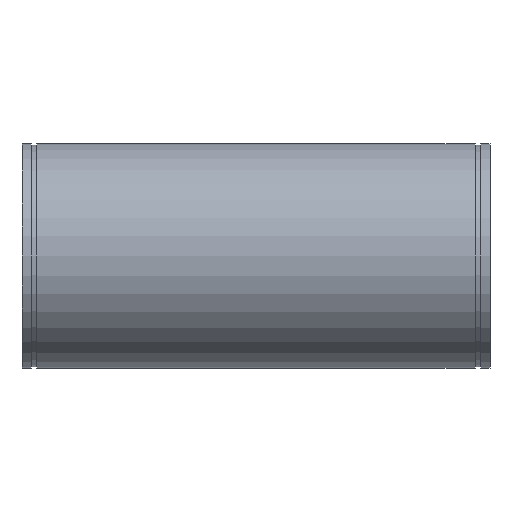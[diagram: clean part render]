
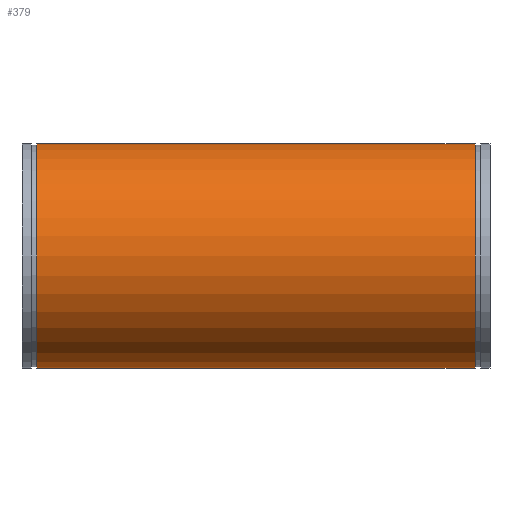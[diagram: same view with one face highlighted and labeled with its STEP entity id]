
A CAD part, left-side view. The second image highlights one B-rep face of the part: STEP entity #379.
In plain terms, the highlighted cylindrical face has radius 304.8 mm (diameter 609.6 mm), a full revolution.
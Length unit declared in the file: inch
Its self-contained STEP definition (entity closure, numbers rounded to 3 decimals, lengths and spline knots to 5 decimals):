
#45=ELLIPSE('',#439,31.35751,12.);
#46=ELLIPSE('',#440,31.35751,12.);
#47=ELLIPSE('',#441,12.98871,12.);
#57=LINE('',#676,#68);
#68=VECTOR('',#544,12.);
#79=CYLINDRICAL_SURFACE('',#438,12.);
#90=FACE_BOUND('',#131,.T.);
#105=FACE_OUTER_BOUND('',#130,.T.);
#130=EDGE_LOOP('',(#292,#293,#294,#295));
#131=EDGE_LOOP('',(#296,#297,#298));
#154=CIRCLE('',#426,12.);
#155=CIRCLE('',#428,12.);
#181=VERTEX_POINT('',#653);
#182=VERTEX_POINT('',#656);
#189=VERTEX_POINT('',#677);
#190=VERTEX_POINT('',#678);
#191=VERTEX_POINT('',#680);
#218=EDGE_CURVE('',#181,#181,#154,.T.);
#219=EDGE_CURVE('',#182,#182,#155,.T.);
#228=EDGE_CURVE('',#181,#182,#57,.T.);
#229=EDGE_CURVE('',#189,#190,#45,.T.);
#230=EDGE_CURVE('',#190,#191,#46,.T.);
#231=EDGE_CURVE('',#191,#189,#47,.T.);
#292=ORIENTED_EDGE('',*,*,#218,.T.);
#293=ORIENTED_EDGE('',*,*,#228,.T.);
#294=ORIENTED_EDGE('',*,*,#219,.T.);
#295=ORIENTED_EDGE('',*,*,#228,.F.);
#296=ORIENTED_EDGE('',*,*,#229,.T.);
#297=ORIENTED_EDGE('',*,*,#230,.T.);
#298=ORIENTED_EDGE('',*,*,#231,.T.);
#379=ADVANCED_FACE('',(#105,#90),#79,.T.);
#426=AXIS2_PLACEMENT_3D('',#654,#516,#517);
#428=AXIS2_PLACEMENT_3D('',#657,#520,#521);
#438=AXIS2_PLACEMENT_3D('',#675,#542,#543);
#439=AXIS2_PLACEMENT_3D('',#679,#545,#546);
#440=AXIS2_PLACEMENT_3D('',#681,#547,#548);
#441=AXIS2_PLACEMENT_3D('',#682,#549,#550);
#516=DIRECTION('center_axis',(0.,1.,0.));
#517=DIRECTION('ref_axis',(1.,0.,0.));
#520=DIRECTION('center_axis',(0.,-1.,0.));
#521=DIRECTION('ref_axis',(1.,0.,0.));
#542=DIRECTION('center_axis',(0.,-1.,0.));
#543=DIRECTION('ref_axis',(1.,0.,0.));
#544=DIRECTION('',(0.,1.,0.));
#545=DIRECTION('center_axis',(-0.924,0.383,0.));
#546=DIRECTION('ref_axis',(-0.383,-0.924,0.));
#547=DIRECTION('center_axis',(-0.924,0.383,0.));
#548=DIRECTION('ref_axis',(-0.383,-0.924,0.));
#549=DIRECTION('center_axis',(-0.383,-0.924,0.));
#550=DIRECTION('ref_axis',(0.924,-0.383,0.));
#653=CARTESIAN_POINT('',(-12.,-8.437,0.));
#654=CARTESIAN_POINT('Origin',(0.,-8.437,0.));
#656=CARTESIAN_POINT('',(-12.,38.437,0.));
#657=CARTESIAN_POINT('Origin',(0.,38.437,0.));
#675=CARTESIAN_POINT('Origin',(0.,40.,0.));
#676=CARTESIAN_POINT('',(-12.,40.,0.));
#677=CARTESIAN_POINT('',(0.,0.,12.));
#678=CARTESIAN_POINT('',(12.,28.97056,0.));
#679=CARTESIAN_POINT('Origin',(0.,0.,0.));
#680=CARTESIAN_POINT('',(0.,0.,-12.));
#681=CARTESIAN_POINT('Origin',(0.,0.,0.));
#682=CARTESIAN_POINT('Origin',(0.,0.,0.));
